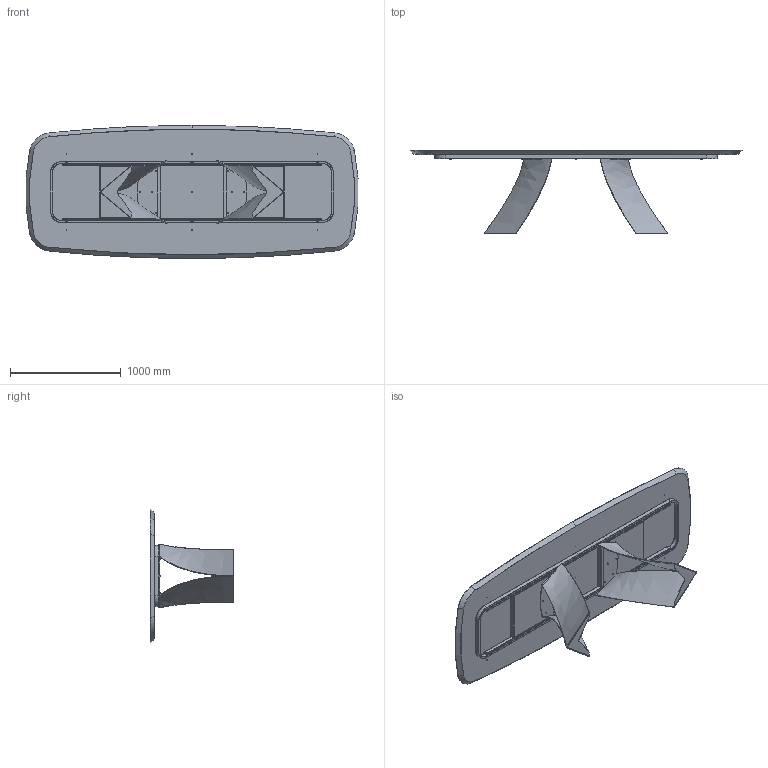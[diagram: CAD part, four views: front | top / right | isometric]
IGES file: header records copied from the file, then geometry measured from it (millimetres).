
Start section: SolidWorks IGES file using analytic representation for surfaces
Global section: file name: Y:\eforma\TECNICO\SOLIDWORKS\E-FORMA\1-TAVOLI\TWIST\02 parts\TW44W.IGS; native system: SolidWorks 2022; preprocessor: SolidWorks 2022; author: eforma.tech; date: 240807.143413; units: millimetre
Bounding box: 2991.72 x 753.37 x 1200 mm (x, y, z)
Volume: 136410640.2 mm3; surface area: 12921801 mm2
Topology: 63 solids, 63 shells, 1551 faces, 3620 edges, 2162 vertices
Faces by surface type: revolution 903, plane 582, bspline 66
